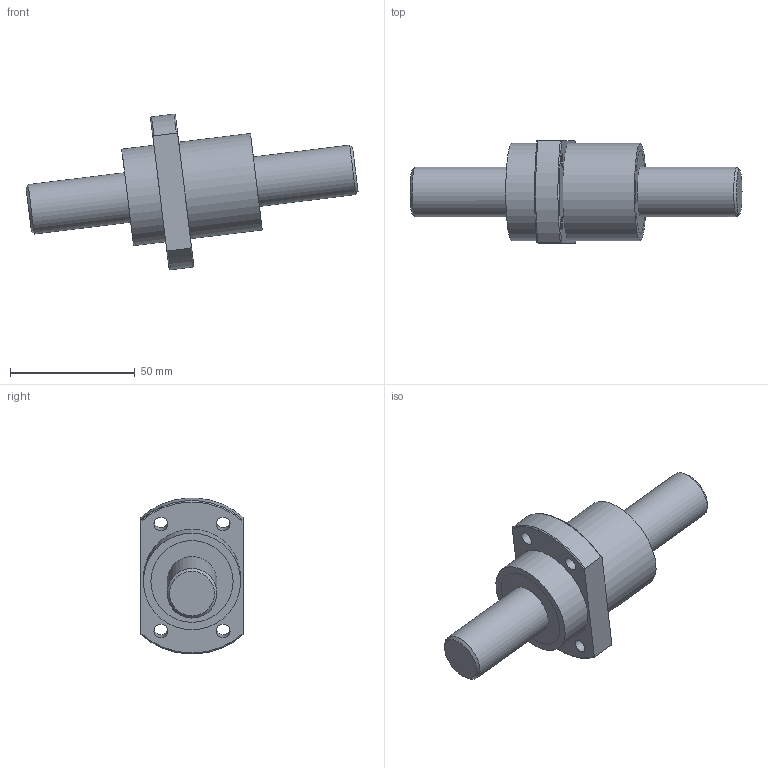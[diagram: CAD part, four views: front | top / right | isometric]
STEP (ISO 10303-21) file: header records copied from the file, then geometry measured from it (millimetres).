
FILE_DESCRIPTION(/* description */ (''),/* implementation_level */ '2;1');
FILE_NAME(/* name */ 'SFY2020.stp',/* time_stamp */ '2013-11-01T09:46:54+08:00',/* author */ (''),/* organization */ (''),/* preprocessor_version */ 'ST-DEVELOPER v11',/* originating_system */ 'SIEMENS UGS NX 6.0',/* authorisation */ '');
FILE_SCHEMA (('CONFIG_CONTROL_DESIGN'));
Length unit declared in the file: millimetre
Products named in the file (1): fann640Fk5n3
Bounding box: 133.21 x 41 x 62.44 mm (x, y, z)
Volume: 97706.1 mm3; surface area: 28910 mm2
Topology: 4 solids, 4 shells, 52 faces, 97 edges, 65 vertices
Faces by surface type: cylinder 24, plane 22, torus 4, cone 2
Full cylindrical faces by diameter (mm): 5.5 x4, 20 x4, 30 x4, 33 x4, 34.5 x4, 39 x2
Entity records: 1416 total; most frequent: CARTESIAN_POINT 330, DIRECTION 224, ORIENTED_EDGE 140, AXIS2_PLACEMENT_3D 108, EDGE_LOOP 102, FACE_BOUND 92, EDGE_CURVE 70, VERTEX_POINT 62
